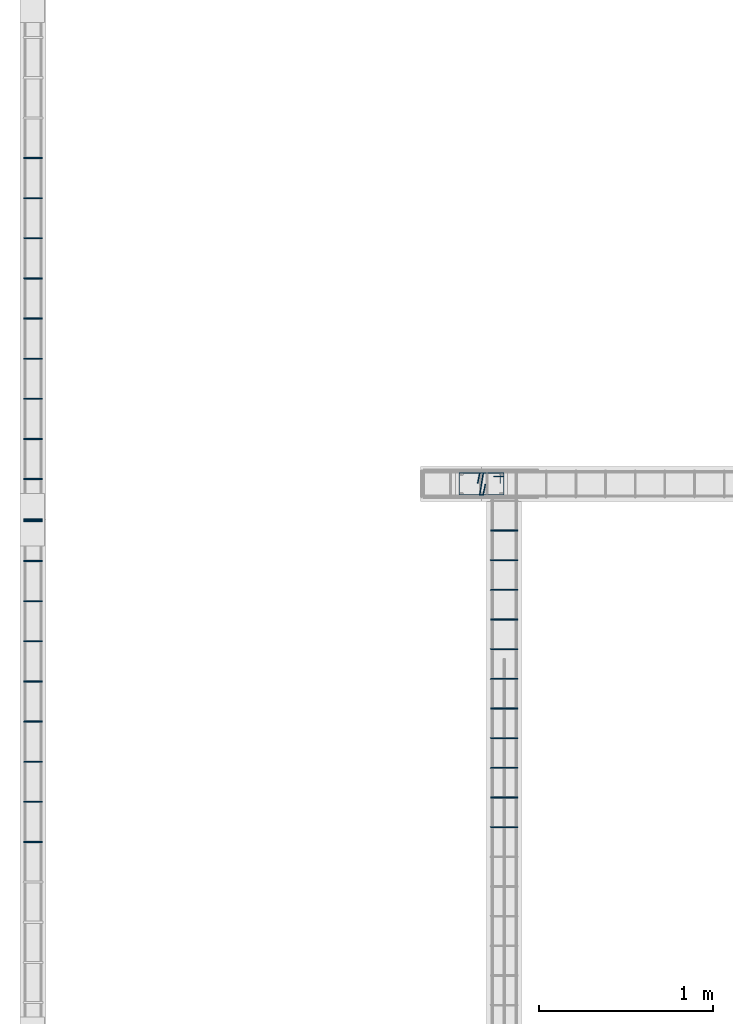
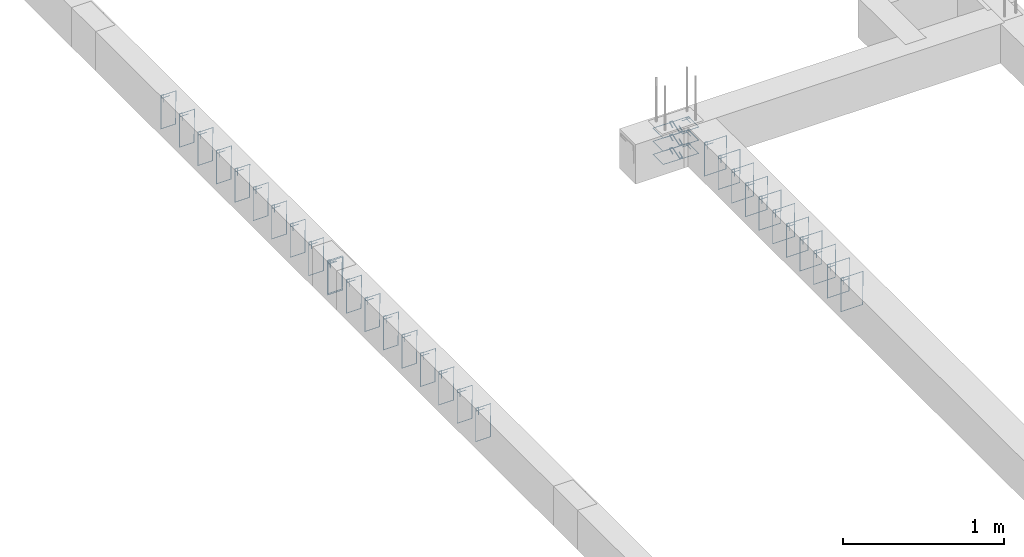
# One storey, part 56 of 150: 36 reinforcing bars.
"""IFC4 building model written with IfcOpenShell, lengths in centimetres."""

from ifc_helpers import new_model, entity, si_unit, derived_unit, frame, origin_with_axes, place, context, project, spatial, source, transform, mapped, element, save


model = new_model("IFC4")

# Units and contexts
model_context = context("Model", 3, precision=1e-05, world=origin_with_axes(), identifier="Body")
ifc_project = project(units=[si_unit("LENGTHUNIT", "METRE", prefix="CENTI"), si_unit("VOLUMEUNIT", "CUBIC_METRE"), si_unit("AREAUNIT", "SQUARE_METRE"), si_unit("POWERUNIT", "WATT"), si_unit("LUMINOUSFLUXUNIT", "LUMEN"), si_unit("ELECTRICCURRENTUNIT", "AMPERE"), si_unit("PRESSUREUNIT", "PASCAL", prefix="KILO"), si_unit("MASSUNIT", "GRAM", prefix="KILO"), si_unit("PLANEANGLEUNIT", "RADIAN"), derived_unit("VOLUMETRICFLOWRATEUNIT", [(si_unit("LENGTHUNIT", "METRE"), 3), (si_unit("TIMEUNIT", "SECOND"), -1)])], contexts=[model_context])

# Site, building, storey
site_placement = place(None, frame((-4000.0, 0.0, 0.0), z_axis=(0.0, 0.0, 1.0), x_axis=(1.0, 0.0, 0.0)))
site = spatial("IfcSite", under=ifc_project, at=site_placement, Name="PADRÃO")
building_placement = place(site_placement, frame((0.0, 0.0, -14.0)))
building = spatial("IfcBuilding", under=site, at=building_placement, Name="CRECHE PRÉ-ESCOLA TIPO 2")
placement = place(building_placement, origin_with_axes())
storey_placement = place(placement, frame((0.0, 0.0, 30.0), z_axis=(0.0, 0.0, 1.0), x_axis=(1.0, 0.0, 0.0)))
storey = spatial("IfcBuildingStorey", under=building, at=storey_placement, Name="VIGA BALDRAME", CompositionType="ELEMENT", Elevation=16.0)

# Reinforcing bars
shared_shape_1 = source(origin_with_axes(), model_context, "Body", "AdvancedSweptSolid", [
    entity("IfcSweptDiskSolid", entity("IfcCompositeCurve", [entity("IfcCompositeCurveSegment", "CONTINUOUS", True, entity("IfcPolyline", [entity("IfcCartesianPoint", [4.25, 21.75, 0.0]), entity("IfcCartesianPoint", [4.25, 27.75, 0.0])])), entity("IfcCompositeCurveSegment", "CONTINUOUS", True, entity("IfcPolyline", [entity("IfcCartesianPoint", [4.25, 27.75, 0.0]), entity("IfcCartesianPoint", [2.25, 27.75, 0.0])])), entity("IfcCompositeCurveSegment", "CONTINUOUS", True, entity("IfcPolyline", [entity("IfcCartesianPoint", [2.25, 27.75, 0.0]), entity("IfcCartesianPoint", [2.25, 2.25, 0.0])])), entity("IfcCompositeCurveSegment", "CONTINUOUS", True, entity("IfcPolyline", [entity("IfcCartesianPoint", [2.25, 2.25, 0.0]), entity("IfcCartesianPoint", [14.75, 2.25, 0.0])])), entity("IfcCompositeCurveSegment", "CONTINUOUS", True, entity("IfcPolyline", [entity("IfcCartesianPoint", [14.75, 2.25, 0.0]), entity("IfcCartesianPoint", [14.75, 27.75, -0.5])])), entity("IfcCompositeCurveSegment", "CONTINUOUS", True, entity("IfcPolyline", [entity("IfcCartesianPoint", [14.75, 27.75, -0.5]), entity("IfcCartesianPoint", [2.25, 27.75, -0.5])])), entity("IfcCompositeCurveSegment", "CONTINUOUS", True, entity("IfcPolyline", [entity("IfcCartesianPoint", [2.25, 27.75, -0.5]), entity("IfcCartesianPoint", [2.25, 25.75, -0.5])])), entity("IfcCompositeCurveSegment", "CONTINUOUS", True, entity("IfcPolyline", [entity("IfcCartesianPoint", [2.25, 25.75, -0.5]), entity("IfcCartesianPoint", [8.25, 25.75, -0.5])]))], False), 0.25),
])
for number, where, z_axis, x_axis, name in (
    (1, (251.0, 1823.5, -5.0), (0.0, 0.0, 1.0), (0.0, -1.0, 0.0), "P94 - Estribo"),
    (2, (251.0, 1823.5, -15.0), (0.0, 0.0, 1.0), (0.0, -1.0, 0.0), "P94 - Estribo"),
    (3, (251.0, 1823.5, -25.0), (0.0, 0.0, 1.0), (0.0, -1.0, 0.0), "P94 - Estribo"),
):
    element("IfcReinforcingBar", number, at=place(storey_placement, frame(where, z_axis=z_axis, x_axis=x_axis)), inside=storey, Name=name, BarLength=0.0, CrossSectionArea=1.9634954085e-05, NominalDiameter=0.5, PredefinedType="MAIN", context=model_context, shape_type="MappedRepresentation", body=[
        mapped(shared_shape_1, transform((0.0, 0.0, 0.0), scale=1.0)),
    ])
shared_shape_2 = source(origin_with_axes(), model_context, "Body", "AdvancedSweptSolid", [
    entity("IfcSweptDiskSolid", entity("IfcCompositeCurve", [entity("IfcCompositeCurveSegment", "CONTINUOUS", True, entity("IfcPolyline", [entity("IfcCartesianPoint", [8.81925062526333, 17.1913887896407, 0.0]), entity("IfcCartesianPoint", [14.75, 16.0, 0.0])])), entity("IfcCompositeCurveSegment", "CONTINUOUS", True, entity("IfcPolyline", [entity("IfcCartesianPoint", [14.75, 16.0, 0.0]), entity("IfcCartesianPoint", [14.75, 14.0, 0.0])])), entity("IfcCompositeCurveSegment", "CONTINUOUS", True, entity("IfcPolyline", [entity("IfcCartesianPoint", [14.75, 14.0, 0.0]), entity("IfcCartesianPoint", [2.25, 16.0, 0.0])])), entity("IfcCompositeCurveSegment", "CONTINUOUS", True, entity("IfcPolyline", [entity("IfcCartesianPoint", [2.25, 16.0, 0.0]), entity("IfcCartesianPoint", [2.25, 14.0, 0.0])])), entity("IfcCompositeCurveSegment", "CONTINUOUS", True, entity("IfcPolyline", [entity("IfcCartesianPoint", [2.25, 14.0, 0.0]), entity("IfcCartesianPoint", [8.1807493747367, 12.8086112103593, 0.0])]))], False), 0.25),
])
for number, where, z_axis, x_axis, name in (
    (4, (251.0, 1823.5, -4.5), (0.0, 0.0, 1.0), (0.0, -1.0, 0.0), "P94 - Grampo"),
    (5, (251.0, 1823.5, -14.5), (0.0, 0.0, 1.0), (0.0, -1.0, 0.0), "P94 - Grampo"),
    (6, (251.0, 1823.5, -24.5), (0.0, 0.0, 1.0), (0.0, -1.0, 0.0), "P94 - Grampo"),
):
    element("IfcReinforcingBar", number, at=place(storey_placement, frame(where, z_axis=z_axis, x_axis=x_axis)), inside=storey, Name=name, BarLength=0.0, CrossSectionArea=1.9634954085e-05, NominalDiameter=0.5, PredefinedType="MAIN", context=model_context, shape_type="MappedRepresentation", body=[
        mapped(shared_shape_2, transform((0.0, 0.0, 0.0), scale=1.0)),
    ])
shared_shape_3 = source(origin_with_axes(), model_context, "Body", "AdvancedSweptSolid", [
    entity("IfcSweptDiskSolid", entity("IfcCompositeCurve", [entity("IfcCompositeCurveSegment", "CONTINUOUS", True, entity("IfcPolyline", [entity("IfcCartesianPoint", [2.0, -6.0, 0.0]), entity("IfcCartesianPoint", [2.0, 0.0, 0.0])])), entity("IfcCompositeCurveSegment", "CONTINUOUS", True, entity("IfcPolyline", [entity("IfcCartesianPoint", [2.0, 0.0, 0.0]), entity("IfcCartesianPoint", [0.0, 0.0, 0.0])])), entity("IfcCompositeCurveSegment", "CONTINUOUS", True, entity("IfcPolyline", [entity("IfcCartesianPoint", [0.0, 0.0, 0.0]), entity("IfcCartesianPoint", [0.0, -25.5, 0.0])])), entity("IfcCompositeCurveSegment", "CONTINUOUS", True, entity("IfcPolyline", [entity("IfcCartesianPoint", [0.0, -25.5, 0.0]), entity("IfcCartesianPoint", [15.5, -25.5, 0.0])])), entity("IfcCompositeCurveSegment", "CONTINUOUS", True, entity("IfcPolyline", [entity("IfcCartesianPoint", [15.5, -25.5, 0.0]), entity("IfcCartesianPoint", [15.5, 0.0, 0.5])])), entity("IfcCompositeCurveSegment", "CONTINUOUS", True, entity("IfcPolyline", [entity("IfcCartesianPoint", [15.5, 0.0, 0.5]), entity("IfcCartesianPoint", [0.0, 0.0, 0.5])])), entity("IfcCompositeCurveSegment", "CONTINUOUS", True, entity("IfcPolyline", [entity("IfcCartesianPoint", [0.0, 0.0, 0.5]), entity("IfcCartesianPoint", [0.0, -2.0, 0.5])])), entity("IfcCompositeCurveSegment", "CONTINUOUS", True, entity("IfcPolyline", [entity("IfcCartesianPoint", [0.0, -2.0, 0.5]), entity("IfcCartesianPoint", [6.0, -2.0, 0.5])]))], False), 0.25),
])
for number, where, z_axis, x_axis, name in (
    (7, (271.25, 1754.5, -2.25), (0.0, -1.0, 0.0), (1.0, 0.0, 0.0), "V162 - Estribo"),
    (8, (271.25, 1737.5, -2.25), (0.0, -1.0, 0.0), (1.0, 0.0, 0.0), "V162 - Estribo"),
    (9, (271.25, 1720.5, -2.25), (0.0, -1.0, 0.0), (1.0, 0.0, 0.0), "V162 - Estribo"),
    (10, (271.25, 1703.5, -2.25), (0.0, -1.0, 0.0), (1.0, 0.0, 0.0), "V162 - Estribo"),
    (11, (271.25, 1686.5, -2.25), (0.0, -1.0, 0.0), (1.0, 0.0, 0.0), "V162 - Estribo"),
    (12, (271.25, 1669.5, -2.25), (0.0, -1.0, 0.0), (1.0, 0.0, 0.0), "V162 - Estribo"),
    (13, (271.25, 1652.5, -2.25), (0.0, -1.0, 0.0), (1.0, 0.0, 0.0), "V162 - Estribo"),
    (14, (271.25, 1618.5, -2.25), (0.0, -1.0, 0.0), (1.0, 0.0, 0.0), "V162 - Estribo"),
    (15, (271.25, 1635.5, -2.25), (0.0, -1.0, 0.0), (1.0, 0.0, 0.0), "V162 - Estribo"),
    (16, (271.25, 1788.5, -2.25), (0.0, -1.0, 0.0), (1.0, 0.0, 0.0), "V162 - Estribo"),
    (17, (271.25, 1771.5, -2.25), (0.0, -1.0, 0.0), (1.0, 0.0, 0.0), "V162 - Estribo"),
):
    element("IfcReinforcingBar", number, at=place(storey_placement, frame(where, z_axis=z_axis, x_axis=x_axis)), inside=storey, Name=name, BarLength=0.0, CrossSectionArea=1.9634954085e-05, NominalDiameter=0.5, PredefinedType="MAIN", context=model_context, shape_type="MappedRepresentation", body=[
        mapped(shared_shape_3, transform((0.0, 0.0, 0.0), scale=1.0)),
    ])
shared_shape_4 = source(origin_with_axes(), model_context, "Body", "AdvancedSweptSolid", [
    entity("IfcSweptDiskSolid", entity("IfcCompositeCurve", [entity("IfcCompositeCurveSegment", "CONTINUOUS", True, entity("IfcPolyline", [entity("IfcCartesianPoint", [2.0, -6.0, 0.0]), entity("IfcCartesianPoint", [2.0, 0.0, 0.0])])), entity("IfcCompositeCurveSegment", "CONTINUOUS", True, entity("IfcPolyline", [entity("IfcCartesianPoint", [2.0, 0.0, 0.0]), entity("IfcCartesianPoint", [0.0, 0.0, 0.0])])), entity("IfcCompositeCurveSegment", "CONTINUOUS", True, entity("IfcPolyline", [entity("IfcCartesianPoint", [0.0, 0.0, 0.0]), entity("IfcCartesianPoint", [0.0, -25.5, 0.0])])), entity("IfcCompositeCurveSegment", "CONTINUOUS", True, entity("IfcPolyline", [entity("IfcCartesianPoint", [0.0, -25.5, 0.0]), entity("IfcCartesianPoint", [10.5, -25.5, 0.0])])), entity("IfcCompositeCurveSegment", "CONTINUOUS", True, entity("IfcPolyline", [entity("IfcCartesianPoint", [10.5, -25.5, 0.0]), entity("IfcCartesianPoint", [10.5, 0.0, 0.5])])), entity("IfcCompositeCurveSegment", "CONTINUOUS", True, entity("IfcPolyline", [entity("IfcCartesianPoint", [10.5, 0.0, 0.5]), entity("IfcCartesianPoint", [0.0, 0.0, 0.5])])), entity("IfcCompositeCurveSegment", "CONTINUOUS", True, entity("IfcPolyline", [entity("IfcCartesianPoint", [0.0, 0.0, 0.5]), entity("IfcCartesianPoint", [0.0, -2.0, 0.5])])), entity("IfcCompositeCurveSegment", "CONTINUOUS", True, entity("IfcPolyline", [entity("IfcCartesianPoint", [0.0, -2.0, 0.5]), entity("IfcCartesianPoint", [6.0, -2.0, 0.5])]))], False), 0.25),
])
for number, where, z_axis, x_axis, name in (
    (18, (3.75, 1610.0, -2.25), (0.0, -1.0, 0.0), (1.0, 0.0, 0.0), "V159 - Estribo"),
    (19, (3.75, 1633.0, -2.25), (0.0, -1.0, 0.0), (1.0, 0.0, 0.0), "V159 - Estribo"),
    (20, (3.75, 1656.0, -2.25), (0.0, -1.0, 0.0), (1.0, 0.0, 0.0), "V159 - Estribo"),
    (21, (3.75, 1679.0, -2.25), (0.0, -1.0, 0.0), (1.0, 0.0, 0.0), "V159 - Estribo"),
    (22, (3.75, 1702.0, -2.25), (0.0, -1.0, 0.0), (1.0, 0.0, 0.0), "V159 - Estribo"),
    (23, (3.75, 1725.0, -2.25), (0.0, -1.0, 0.0), (1.0, 0.0, 0.0), "V159 - Estribo"),
    (24, (3.75, 1748.0, -2.25), (0.0, -1.0, 0.0), (1.0, 0.0, 0.0), "V159 - Estribo"),
    (25, (3.75, 1771.0, -2.25), (0.0, -1.0, 0.0), (1.0, 0.0, 0.0), "V159 - Estribo"),
    (26, (3.75, 1794.0, -2.25), (0.0, -1.0, 0.0), (1.0, 0.0, 0.0), "V159 - Estribo"),
):
    element("IfcReinforcingBar", number, at=place(storey_placement, frame(where, z_axis=z_axis, x_axis=x_axis)), inside=storey, Name=name, BarLength=0.0, CrossSectionArea=1.9634954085e-05, NominalDiameter=0.5, PredefinedType="MAIN", context=model_context, shape_type="MappedRepresentation", body=[
        mapped(shared_shape_4, transform((0.0, 0.0, 0.0), scale=1.0)),
    ])
shared_shape_5 = source(origin_with_axes(), model_context, "Body", "AdvancedSweptSolid", [
    entity("IfcSweptDiskSolid", entity("IfcCompositeCurve", [entity("IfcCompositeCurveSegment", "CONTINUOUS", True, entity("IfcPolyline", [entity("IfcCartesianPoint", [2.0, -6.0, 0.0]), entity("IfcCartesianPoint", [2.0, 0.0, 0.0])])), entity("IfcCompositeCurveSegment", "CONTINUOUS", True, entity("IfcPolyline", [entity("IfcCartesianPoint", [2.0, 0.0, 0.0]), entity("IfcCartesianPoint", [0.0, 0.0, 0.0])])), entity("IfcCompositeCurveSegment", "CONTINUOUS", True, entity("IfcPolyline", [entity("IfcCartesianPoint", [0.0, 0.0, 0.0]), entity("IfcCartesianPoint", [0.0, -25.5, 0.0])])), entity("IfcCompositeCurveSegment", "CONTINUOUS", True, entity("IfcPolyline", [entity("IfcCartesianPoint", [0.0, -25.5, 0.0]), entity("IfcCartesianPoint", [10.5, -25.5, 0.0])])), entity("IfcCompositeCurveSegment", "CONTINUOUS", True, entity("IfcPolyline", [entity("IfcCartesianPoint", [10.5, -25.5, 0.0]), entity("IfcCartesianPoint", [10.5, 0.0, 0.5])])), entity("IfcCompositeCurveSegment", "CONTINUOUS", True, entity("IfcPolyline", [entity("IfcCartesianPoint", [10.5, 0.0, 0.5]), entity("IfcCartesianPoint", [0.0, 0.0, 0.5])])), entity("IfcCompositeCurveSegment", "CONTINUOUS", True, entity("IfcPolyline", [entity("IfcCartesianPoint", [0.0, 0.0, 0.5]), entity("IfcCartesianPoint", [0.0, -2.0, 0.5])])), entity("IfcCompositeCurveSegment", "CONTINUOUS", True, entity("IfcPolyline", [entity("IfcCartesianPoint", [0.0, -2.0, 0.5]), entity("IfcCartesianPoint", [6.0, -2.0, 0.5])]))], False), 0.25),
])
for number, where, z_axis, x_axis, name in (
    (27, (3.75, 1910.0, -2.25), (0.0, -1.0, 0.0), (1.0, 0.0, 0.0), "V159 - Estribo"),
    (28, (3.75, 1933.0, -2.25), (0.0, -1.0, 0.0), (1.0, 0.0, 0.0), "V159 - Estribo"),
    (29, (3.75, 1956.0, -2.25), (0.0, -1.0, 0.0), (1.0, 0.0, 0.0), "V159 - Estribo"),
    (30, (3.75, 1979.0, -2.25), (0.0, -1.0, 0.0), (1.0, 0.0, 0.0), "V159 - Estribo"),
    (31, (3.75, 2002.0, -2.25), (0.0, -1.0, 0.0), (1.0, 0.0, 0.0), "V159 - Estribo"),
    (32, (3.75, 1795.0, -2.25), (0.0, -1.0, 0.0), (1.0, 0.0, 0.0), "V159 - Estribo"),
    (33, (3.75, 1818.0, -2.25), (0.0, -1.0, 0.0), (1.0, 0.0, 0.0), "V159 - Estribo"),
    (34, (3.75, 1841.0, -2.25), (0.0, -1.0, 0.0), (1.0, 0.0, 0.0), "V159 - Estribo"),
    (35, (3.75, 1864.0, -2.25), (0.0, -1.0, 0.0), (1.0, 0.0, 0.0), "V159 - Estribo"),
    (36, (3.75, 1887.0, -2.25), (0.0, -1.0, 0.0), (1.0, 0.0, 0.0), "V159 - Estribo"),
):
    element("IfcReinforcingBar", number, at=place(storey_placement, frame(where, z_axis=z_axis, x_axis=x_axis)), inside=storey, Name=name, BarLength=0.0, CrossSectionArea=1.9634954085e-05, NominalDiameter=0.5, PredefinedType="MAIN", context=model_context, shape_type="MappedRepresentation", body=[
        mapped(shared_shape_5, transform((0.0, 0.0, 0.0), scale=1.0)),
    ])

save(model, "model.ifc")
